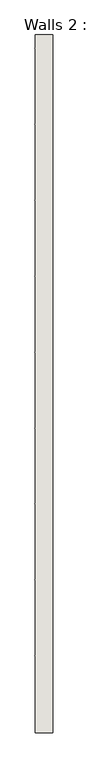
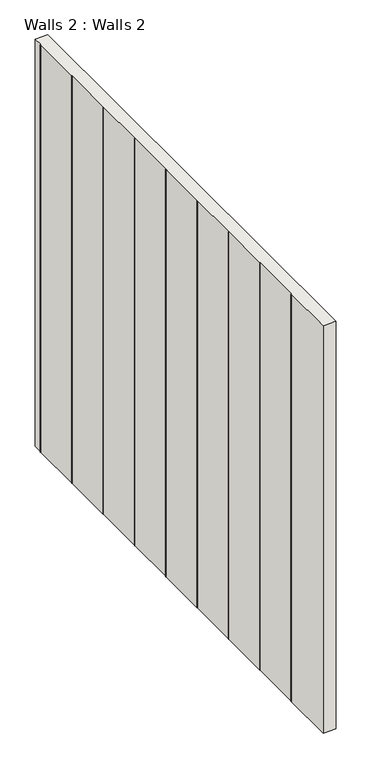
"""IFC4 building model written with IfcOpenShell, lengths in millimetres: wall geometry, Walls 2 : Walls 2."""

from ifc_helpers import new_model, si_unit, frame, origin, place, context, project, spatial, polyline, outline, extrude, source, transform, mapped, element, save


def walls_2_walls_2_4adeaf41(model_context):
    return source(origin(), model_context, "Body", "SweptSolid", [
        extrude(outline(polyline([(-4135.1108023, -3469.5092181), (-4222.1108023, -3469.5092181), (-4222.1108023, -3090.7324578), (-4223.9908023, -3088.8524578), (-4222.1108023, -3086.9724578), (-4222.1108023, -2715.7324578), (-4223.9908023, -2713.8524578), (-4222.1108023, -2711.9724578), (-4222.1108023, -2340.7324578), (-4223.9908023, -2338.8524578), (-4222.1108023, -2336.9724578), (-4222.1108023, -1965.7324578), (-4223.9908023, -1963.8524578), (-4222.1108023, -1961.9724578), (-4222.1108023, -1590.7324578), (-4223.9908023, -1588.8524578), (-4222.1108023, -1586.9724578), (-4222.1108023, -1215.7324578), (-4223.9908023, -1213.8524578), (-4222.1108023, -1211.9724578), (-4222.1108023, -840.7324578), (-4223.9908023, -838.8524578), (-4222.1108023, -836.9724578), (-4222.1108023, -465.7324578), (-4223.9908023, -463.8524578), (-4222.1108023, -461.9724578), (-4222.1108023, -90.7324578), (-4223.9908023, -88.8524578), (-4222.1108023, -86.9724578), (-4222.1108023, -22.958459), (-4135.1108023, -22.958459), (-4135.1108023, -3469.5092181)])), frame((0.0, 0.0, 340.0), z_axis=(0.0, 0.0, 1.0), x_axis=(1.0, 0.0, 0.0)), (0.0, 0.0, 1.0), 2971.0),
    ])


if __name__ == "__main__":
    model = new_model("IFC4")
    model_context = context("Model", 3, world=origin())
    ifc_project = project(units=[si_unit("LENGTHUNIT", "METRE", prefix="MILLI")], contexts=[model_context])
    site = spatial("IfcSite", under=ifc_project)
    building = spatial("IfcBuilding", under=site)
    placement = place(None, origin())
    walls_2_walls_2_shape = walls_2_walls_2_4adeaf41(model_context)
    element("IfcWall", 1, ObjectType="Walls 2 : Walls 2", at=placement, inside=building, context=model_context, shape_type="MappedRepresentation", body=[
        mapped(walls_2_walls_2_shape, transform((0.0, 0.0, 0.0), x_axis=(1.0, 0.0, 0.0), y_axis=(0.0, 1.0, 0.0), z_axis=(0.0, 0.0, 1.0))),
    ])
    save(model, "model.ifc")
